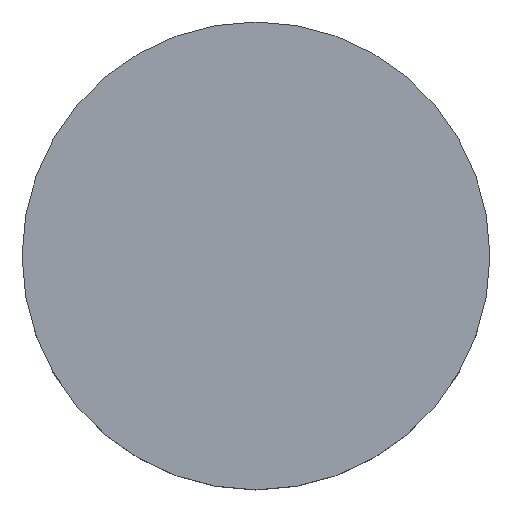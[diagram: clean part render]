
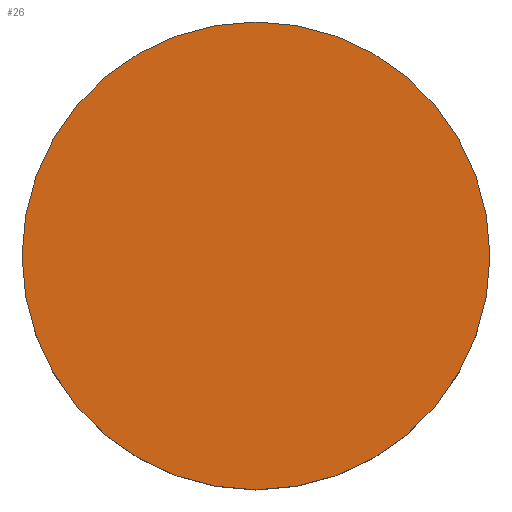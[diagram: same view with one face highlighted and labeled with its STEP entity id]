
A CAD part, top view. The second image highlights one B-rep face of the part: STEP entity #26.
In plain terms, the highlighted planar face has unit normal (0, 0, 1).
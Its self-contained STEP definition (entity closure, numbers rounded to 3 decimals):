
#5 = DIRECTION ( 'NONE',  ( 0., 0., 1. ) ) ;
#21 = EDGE_CURVE ( 'NONE', #71, #27, #101, .T. ) ;
#23 = EDGE_LOOP ( 'NONE', ( #169, #174 ) ) ;
#25 = DIRECTION ( 'NONE',  ( 1., 0., 0. ) ) ;
#26 = ADVANCED_FACE ( 'NONE', ( #172 ), #60, .T. ) ;
#27 = VERTEX_POINT ( 'NONE', #173 ) ;
#57 = CARTESIAN_POINT ( 'NONE',  ( 0., 0., 2. ) ) ;
#59 = AXIS2_PLACEMENT_3D ( 'NONE', #106, #77, #196 ) ;
#60 = PLANE ( 'NONE',  #202 ) ;
#61 = DIRECTION ( 'NONE',  ( 0., 0., 1. ) ) ;
#71 = VERTEX_POINT ( 'NONE', #114 ) ;
#77 = DIRECTION ( 'NONE',  ( 0., 0., 1. ) ) ;
#101 = CIRCLE ( 'NONE', #208, 5. ) ;
#104 = DIRECTION ( 'NONE',  ( 1., 0., 0. ) ) ;
#106 = CARTESIAN_POINT ( 'NONE',  ( 0., 0., 2. ) ) ;
#114 = CARTESIAN_POINT ( 'NONE',  ( 5., 0., 2. ) ) ;
#124 = CARTESIAN_POINT ( 'NONE',  ( 0., 0., 2. ) ) ;
#154 = CIRCLE ( 'NONE', #59, 5. ) ;
#169 = ORIENTED_EDGE ( 'NONE', *, *, #183, .T. ) ;
#172 = FACE_OUTER_BOUND ( 'NONE', #23, .T. ) ;
#173 = CARTESIAN_POINT ( 'NONE',  ( -5., 0., 2. ) ) ;
#174 = ORIENTED_EDGE ( 'NONE', *, *, #21, .T. ) ;
#183 = EDGE_CURVE ( 'NONE', #27, #71, #154, .T. ) ;
#196 = DIRECTION ( 'NONE',  ( 1., 0., 0. ) ) ;
#202 = AXIS2_PLACEMENT_3D ( 'NONE', #124, #61, #104 ) ;
#208 = AXIS2_PLACEMENT_3D ( 'NONE', #57, #5, #25 ) ;
